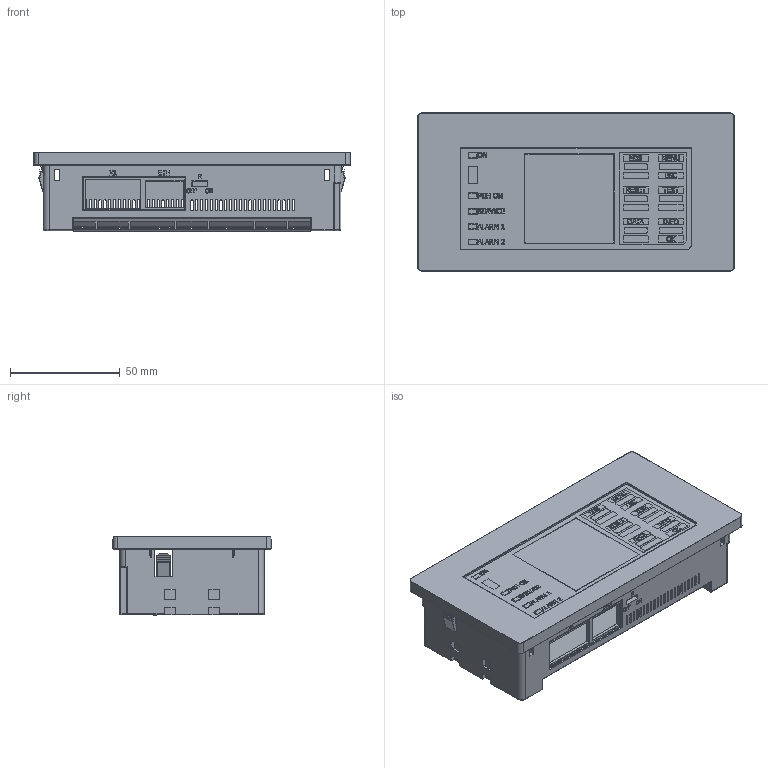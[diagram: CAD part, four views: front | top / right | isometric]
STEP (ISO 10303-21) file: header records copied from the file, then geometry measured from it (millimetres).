
FILE_DESCRIPTION (( 'STEP AP214' ), '1' );
FILE_NAME ('FP200_144x72_SM .STEP', '2016-08-29T10:36:10', ( 'User' ), ( 'Bender' ), 'SwSTEP 2.0', 'SolidWorks 2016', '' );
FILE_SCHEMA (( 'AUTOMOTIVE_DESIGN' ));
Length unit declared in the file: millimetre
Products named in the file (1): FP200_144x72_SM 
Bounding box: 144 x 72 x 36.15 mm (x, y, z)
Surface area: 67749.5 mm2 (no closed solid volume)
Topology: 0 solids, 45 shells, 1192 faces, 6386 edges, 5071 vertices
Faces by surface type: plane 616, cylinder 454, bspline 65, torus 32, sphere 17, cone 8
Full cylindrical faces by diameter (mm): 1.76 x1, 2.31 x1
Entity records: 82130 total; most frequent: CARTESIAN_POINT 23459, ORIENTED_EDGE 8664, DIRECTION 7914, EDGE_CURVE 6358, VERTEX_POINT 5065, VECTOR 3812, LINE 3812, AXIS2_PLACEMENT_3D 2051
